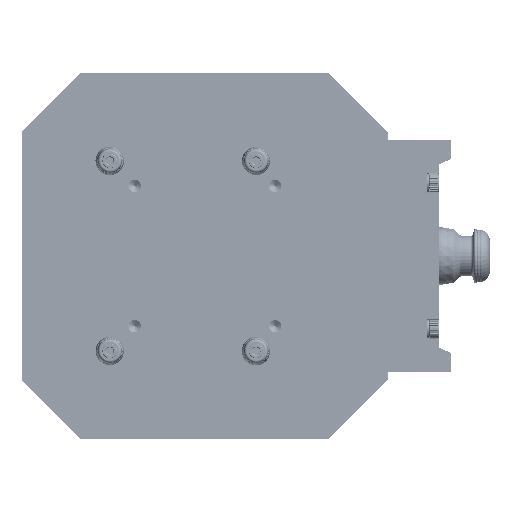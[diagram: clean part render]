
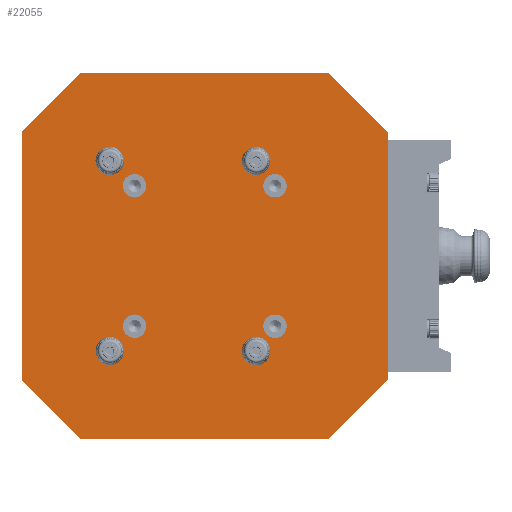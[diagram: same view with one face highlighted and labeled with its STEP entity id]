
A CAD part, front view. The second image highlights one B-rep face of the part: STEP entity #22055.
In plain terms, the highlighted planar face has unit normal (0, -1, 0).
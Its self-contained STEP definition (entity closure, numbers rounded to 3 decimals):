
#537 = CARTESIAN_POINT ( 'NONE',  ( -48., 0., 39.99 ) ) ;
#975 = CARTESIAN_POINT ( 'NONE',  ( 85., 0., -125. ) ) ;
#1028 = CARTESIAN_POINT ( 'NONE',  ( -125., 0., -85. ) ) ;
#1380 = CIRCLE ( 'NONE', #15407, 6.011 ) ;
#1502 = CIRCLE ( 'NONE', #25608, 8.01 ) ;
#1528 = AXIS2_PLACEMENT_3D ( 'NONE', #51274, #20256, #6130 ) ;
#3404 = CARTESIAN_POINT ( 'NONE',  ( 48., 0., -48. ) ) ;
#3469 = EDGE_CURVE ( 'NONE', #34814, #59778, #14907, .T. ) ;
#3784 = VECTOR ( 'NONE', #56066, 1000. ) ;
#4378 = DIRECTION ( 'NONE',  ( 0., -1., 0. ) ) ;
#4729 = DIRECTION ( 'NONE',  ( 0., 0., 1. ) ) ;
#4902 = ORIENTED_EDGE ( 'NONE', *, *, #3469, .F. ) ;
#4975 = ORIENTED_EDGE ( 'NONE', *, *, #25832, .F. ) ;
#5423 = DIRECTION ( 'NONE',  ( 0., 0., 1. ) ) ;
#6089 = DIRECTION ( 'NONE',  ( -0.707, 0., 0.707 ) ) ;
#6130 = DIRECTION ( 'NONE',  ( 0., 0., 1. ) ) ;
#7293 = CARTESIAN_POINT ( 'NONE',  ( 125., 0., -85. ) ) ;
#7537 = AXIS2_PLACEMENT_3D ( 'NONE', #61604, #46543, #41235 ) ;
#7759 = VECTOR ( 'NONE', #6089, 1000. ) ;
#7875 = FACE_OUTER_BOUND ( 'NONE', #45603, .T. ) ;
#8804 = FACE_BOUND ( 'NONE', #55501, .T. ) ;
#9280 = DIRECTION ( 'NONE',  ( 0., 0., -1. ) ) ;
#9904 = DIRECTION ( 'NONE',  ( 0., 0., 1. ) ) ;
#11265 = EDGE_CURVE ( 'NONE', #21242, #21242, #57914, .T. ) ;
#12292 = EDGE_LOOP ( 'NONE', ( #15184 ) ) ;
#13207 = CARTESIAN_POINT ( 'NONE',  ( -48., 0., -48. ) ) ;
#13826 = FACE_BOUND ( 'NONE', #12292, .T. ) ;
#14059 = CARTESIAN_POINT ( 'NONE',  ( -125., 0., -85. ) ) ;
#14139 = EDGE_CURVE ( 'NONE', #53806, #50915, #16451, .T. ) ;
#14341 = ORIENTED_EDGE ( 'NONE', *, *, #61262, .T. ) ;
#14907 = LINE ( 'NONE', #52998, #19023 ) ;
#15184 = ORIENTED_EDGE ( 'NONE', *, *, #52843, .F. ) ;
#15407 = AXIS2_PLACEMENT_3D ( 'NONE', #61937, #4378, #53146 ) ;
#16451 = LINE ( 'NONE', #49193, #7759 ) ;
#17173 = EDGE_CURVE ( 'NONE', #31948, #31948, #1380, .T. ) ;
#17291 = VECTOR ( 'NONE', #58826, 1000. ) ;
#17350 = DIRECTION ( 'NONE',  ( 0., -1., 0. ) ) ;
#18382 = VERTEX_POINT ( 'NONE', #61181 ) ;
#18711 = CARTESIAN_POINT ( 'NONE',  ( -65., 0., -65. ) ) ;
#19023 = VECTOR ( 'NONE', #9904, 1000. ) ;
#19469 = ORIENTED_EDGE ( 'NONE', *, *, #47505, .T. ) ;
#20030 = CARTESIAN_POINT ( 'NONE',  ( -125., 0., 85. ) ) ;
#20091 = VERTEX_POINT ( 'NONE', #58466 ) ;
#20180 = VERTEX_POINT ( 'NONE', #7293 ) ;
#20256 = DIRECTION ( 'NONE',  ( 0., 1., 0. ) ) ;
#21242 = VERTEX_POINT ( 'NONE', #59617 ) ;
#21660 = VECTOR ( 'NONE', #42713, 1000. ) ;
#21944 = EDGE_CURVE ( 'NONE', #33159, #33159, #34652, .T. ) ;
#22055 = ADVANCED_FACE ( 'NONE', ( #37405, #37728, #56581, #56911, #8804, #13826, #33002, #28285, #7875 ), #32090, .F. ) ;
#22220 = EDGE_LOOP ( 'NONE', ( #25096 ) ) ;
#22848 = DIRECTION ( 'NONE',  ( 1., 0., 0. ) ) ;
#22894 = VERTEX_POINT ( 'NONE', #46166 ) ;
#24004 = ORIENTED_EDGE ( 'NONE', *, *, #36025, .T. ) ;
#24124 = ORIENTED_EDGE ( 'NONE', *, *, #14139, .T. ) ;
#24525 = CARTESIAN_POINT ( 'NONE',  ( -48., 0., 48. ) ) ;
#24938 = DIRECTION ( 'NONE',  ( 0., -1., 0. ) ) ;
#25096 = ORIENTED_EDGE ( 'NONE', *, *, #35226, .F. ) ;
#25163 = EDGE_LOOP ( 'NONE', ( #39119 ) ) ;
#25608 = AXIS2_PLACEMENT_3D ( 'NONE', #3404, #55631, #50020 ) ;
#25832 = EDGE_CURVE ( 'NONE', #32720, #50915, #31357, .T. ) ;
#26345 = CARTESIAN_POINT ( 'NONE',  ( 168., 0., 125. ) ) ;
#26939 = CARTESIAN_POINT ( 'NONE',  ( 35., 0., -58.989 ) ) ;
#27690 = VECTOR ( 'NONE', #29174, 1000. ) ;
#28122 = EDGE_LOOP ( 'NONE', ( #54225 ) ) ;
#28285 = FACE_BOUND ( 'NONE', #61898, .T. ) ;
#28339 = DIRECTION ( 'NONE',  ( 0., 0., -1. ) ) ;
#28440 = CARTESIAN_POINT ( 'NONE',  ( 48., 0., 56.01 ) ) ;
#29097 = CARTESIAN_POINT ( 'NONE',  ( -65., 0., 71.011 ) ) ;
#29174 = DIRECTION ( 'NONE',  ( 0., 0., 1. ) ) ;
#31010 = CIRCLE ( 'NONE', #43063, 8.01 ) ;
#31357 = LINE ( 'NONE', #26345, #60678 ) ;
#31654 = CIRCLE ( 'NONE', #50750, 6.011 ) ;
#31948 = VERTEX_POINT ( 'NONE', #26939 ) ;
#32090 = PLANE ( 'NONE',  #1528 ) ;
#32097 = CARTESIAN_POINT ( 'NONE',  ( 85., 0., 125. ) ) ;
#32720 = VERTEX_POINT ( 'NONE', #44359 ) ;
#32982 = ORIENTED_EDGE ( 'NONE', *, *, #11265, .F. ) ;
#33002 = FACE_BOUND ( 'NONE', #25163, .T. ) ;
#33159 = VERTEX_POINT ( 'NONE', #28440 ) ;
#33420 = EDGE_CURVE ( 'NONE', #57861, #57861, #31010, .T. ) ;
#33737 = CARTESIAN_POINT ( 'NONE',  ( -65., 0., 65. ) ) ;
#33987 = LINE ( 'NONE', #975, #17291 ) ;
#34652 = CIRCLE ( 'NONE', #7537, 8.01 ) ;
#34814 = VERTEX_POINT ( 'NONE', #1028 ) ;
#34824 = CARTESIAN_POINT ( 'NONE',  ( 125., 0., 85. ) ) ;
#35155 = ORIENTED_EDGE ( 'NONE', *, *, #36028, .T. ) ;
#35226 = EDGE_CURVE ( 'NONE', #20091, #20091, #1502, .T. ) ;
#35353 = AXIS2_PLACEMENT_3D ( 'NONE', #24525, #44089, #39659 ) ;
#36025 = EDGE_CURVE ( 'NONE', #20180, #53806, #56848, .T. ) ;
#36028 = EDGE_CURVE ( 'NONE', #34814, #22894, #52757, .T. ) ;
#37405 = FACE_BOUND ( 'NONE', #57371, .T. ) ;
#37728 = FACE_BOUND ( 'NONE', #22220, .T. ) ;
#38650 = LINE ( 'NONE', #44633, #39532 ) ;
#39119 = ORIENTED_EDGE ( 'NONE', *, *, #56930, .F. ) ;
#39532 = VECTOR ( 'NONE', #48393, 1000. ) ;
#39659 = DIRECTION ( 'NONE',  ( 0., 0., -1. ) ) ;
#39814 = CIRCLE ( 'NONE', #55874, 6.011 ) ;
#40411 = CIRCLE ( 'NONE', #35353, 8.01 ) ;
#40743 = EDGE_LOOP ( 'NONE', ( #44906 ) ) ;
#41235 = DIRECTION ( 'NONE',  ( 0., 0., 1. ) ) ;
#41602 = CARTESIAN_POINT ( 'NONE',  ( -85., 0., 125. ) ) ;
#42713 = DIRECTION ( 'NONE',  ( 0.707, 0., -0.707 ) ) ;
#43063 = AXIS2_PLACEMENT_3D ( 'NONE', #13207, #61633, #4729 ) ;
#43636 = VERTEX_POINT ( 'NONE', #537 ) ;
#44089 = DIRECTION ( 'NONE',  ( 0., -1., 0. ) ) ;
#44359 = CARTESIAN_POINT ( 'NONE',  ( -85., 0., 125. ) ) ;
#44378 = ORIENTED_EDGE ( 'NONE', *, *, #17173, .F. ) ;
#44633 = CARTESIAN_POINT ( 'NONE',  ( 125., 0., -125. ) ) ;
#44906 = ORIENTED_EDGE ( 'NONE', *, *, #47491, .F. ) ;
#45007 = ORIENTED_EDGE ( 'NONE', *, *, #49960, .F. ) ;
#45603 = EDGE_LOOP ( 'NONE', ( #24004, #24124, #4975, #14341, #4902, #35155, #45007, #19469 ) ) ;
#46166 = CARTESIAN_POINT ( 'NONE',  ( -85., 0., -125. ) ) ;
#46543 = DIRECTION ( 'NONE',  ( 0., -1., 0. ) ) ;
#47491 = EDGE_CURVE ( 'NONE', #43636, #43636, #40411, .T. ) ;
#47505 = EDGE_CURVE ( 'NONE', #62205, #20180, #33987, .T. ) ;
#48393 = DIRECTION ( 'NONE',  ( -1., 0., 0. ) ) ;
#49193 = CARTESIAN_POINT ( 'NONE',  ( 85., 0., 125. ) ) ;
#49960 = EDGE_CURVE ( 'NONE', #62205, #22894, #38650, .T. ) ;
#50020 = DIRECTION ( 'NONE',  ( 0., 0., -1. ) ) ;
#50750 = AXIS2_PLACEMENT_3D ( 'NONE', #18711, #57097, #9280 ) ;
#50915 = VERTEX_POINT ( 'NONE', #32097 ) ;
#51207 = CARTESIAN_POINT ( 'NONE',  ( 85., 0., -125. ) ) ;
#51274 = CARTESIAN_POINT ( 'NONE',  ( 0., 0., 0. ) ) ;
#52673 = VERTEX_POINT ( 'NONE', #29097 ) ;
#52757 = LINE ( 'NONE', #14059, #21660 ) ;
#52843 = EDGE_CURVE ( 'NONE', #18382, #18382, #31654, .T. ) ;
#52998 = CARTESIAN_POINT ( 'NONE',  ( -125., 0., 125. ) ) ;
#53146 = DIRECTION ( 'NONE',  ( 0., 0., 1. ) ) ;
#53806 = VERTEX_POINT ( 'NONE', #34824 ) ;
#53965 = ORIENTED_EDGE ( 'NONE', *, *, #33420, .F. ) ;
#54225 = ORIENTED_EDGE ( 'NONE', *, *, #21944, .F. ) ;
#55501 = EDGE_LOOP ( 'NONE', ( #44378 ) ) ;
#55631 = DIRECTION ( 'NONE',  ( 0., -1., 0. ) ) ;
#55874 = AXIS2_PLACEMENT_3D ( 'NONE', #33737, #24938, #5423 ) ;
#55947 = AXIS2_PLACEMENT_3D ( 'NONE', #60438, #17350, #28339 ) ;
#56066 = DIRECTION ( 'NONE',  ( -0.707, 0., -0.707 ) ) ;
#56581 = FACE_BOUND ( 'NONE', #28122, .T. ) ;
#56848 = LINE ( 'NONE', #57168, #27690 ) ;
#56911 = FACE_BOUND ( 'NONE', #40743, .T. ) ;
#56930 = EDGE_CURVE ( 'NONE', #52673, #52673, #39814, .T. ) ;
#57097 = DIRECTION ( 'NONE',  ( 0., -1., 0. ) ) ;
#57168 = CARTESIAN_POINT ( 'NONE',  ( 125., 0., -85. ) ) ;
#57371 = EDGE_LOOP ( 'NONE', ( #53965 ) ) ;
#57539 = CARTESIAN_POINT ( 'NONE',  ( -48., 0., -39.99 ) ) ;
#57861 = VERTEX_POINT ( 'NONE', #57539 ) ;
#57914 = CIRCLE ( 'NONE', #55947, 6.011 ) ;
#58466 = CARTESIAN_POINT ( 'NONE',  ( 48., 0., -56.01 ) ) ;
#58826 = DIRECTION ( 'NONE',  ( 0.707, 0., 0.707 ) ) ;
#59617 = CARTESIAN_POINT ( 'NONE',  ( 35., 0., 58.989 ) ) ;
#59778 = VERTEX_POINT ( 'NONE', #20030 ) ;
#60438 = CARTESIAN_POINT ( 'NONE',  ( 35., 0., 65. ) ) ;
#60678 = VECTOR ( 'NONE', #22848, 1000. ) ;
#61085 = LINE ( 'NONE', #41602, #3784 ) ;
#61181 = CARTESIAN_POINT ( 'NONE',  ( -65., 0., -71.011 ) ) ;
#61262 = EDGE_CURVE ( 'NONE', #32720, #59778, #61085, .T. ) ;
#61604 = CARTESIAN_POINT ( 'NONE',  ( 48., 0., 48. ) ) ;
#61633 = DIRECTION ( 'NONE',  ( 0., -1., 0. ) ) ;
#61898 = EDGE_LOOP ( 'NONE', ( #32982 ) ) ;
#61937 = CARTESIAN_POINT ( 'NONE',  ( 35., 0., -65. ) ) ;
#62205 = VERTEX_POINT ( 'NONE', #51207 ) ;
